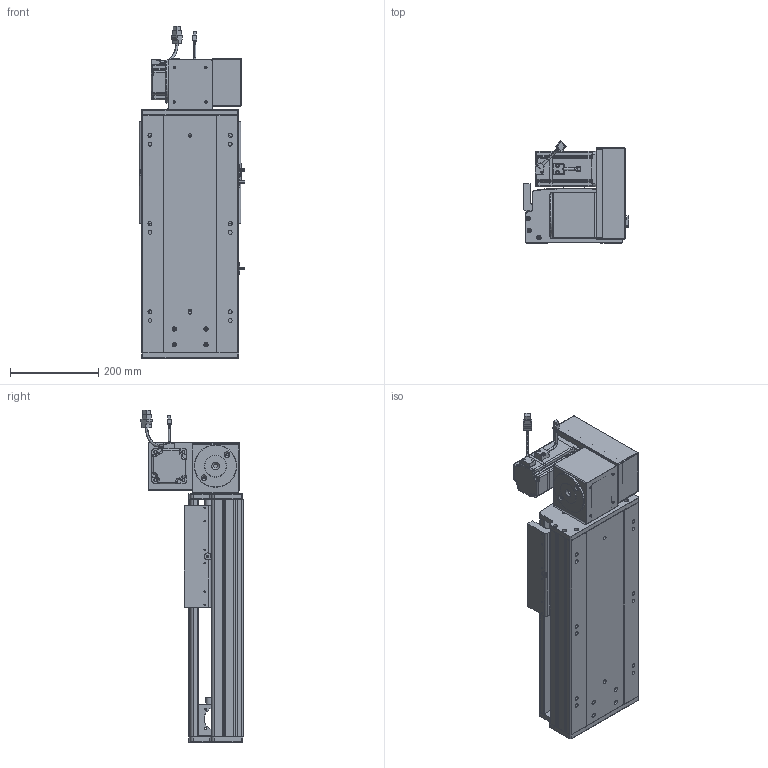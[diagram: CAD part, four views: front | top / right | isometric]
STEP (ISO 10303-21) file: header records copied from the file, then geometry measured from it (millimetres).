
FILE_DESCRIPTION (( 'STEP AP203' ), '1' );
FILE_NAME ('RY220-T-300-UR.SLDASM_200.step', '2022-07-25T08:42:22', ( '' ), ( '' ), 'SwSTEP 2.0', 'SolidWorks 2016', '' );
FILE_SCHEMA (( 'CONFIG_CONTROL_DESIGN' ));
Length unit declared in the file: millimetre
Products named in the file (14): RY220-T菁釱-300_200; RY220翋肮祭謫釱; RY220圉猾敕々湍臏賑輸; RY220翋肮祭謫裔啣; RY220-T-湍謫欶(鍼踢); 覜茼ん672; RY220-T-蛌殏萇儂假蚾啣(750W); RY220-T-300-UR.SLDASM_200; 滅袉蝶18-15; 110A-T-肮祭謫釱傷裔; RY220-俋离672覜茼んえ; RY220-同步轮副支撑座6304×2; 怢湛750W_ECMA-CX0807ES; RY220-T-300-奻裔啣_200
Assembly tree (18 placements, depth 2):
  RY220-T-300-UR.SLDASM_200
    RY220-T菁釱-300_200
    RY220翋肮祭謫釱
    覜茼ん672  x3
    RY220圉猾敕々湍臏賑輸
    RY220-T-300-奻裔啣_200
    RY220-俋离672覜茼んえ
    滅袉蝶18-15  x3
    RY220翋肮祭謫裔啣  x2
    110A-T-肮祭謫釱傷裔
    怢湛750W_ECMA-CX0807ES
    RY220-T-湍謫欶(鍼踢)
    RY220-T-蛌殏萇儂假蚾啣(750W)
    RY220-同步轮副支撑座6304×2
Bounding box: 238.7 x 231.74 x 753.27 mm (x, y, z)
Volume: 7085308.4 mm3; surface area: 1892157.5 mm2
Topology: 19 solids, 19 shells, 2456 faces, 6763 edges, 4322 vertices
Faces by surface type: cylinder 1112, plane 1069, cone 193, bspline 56, sphere 16, torus 10
Entity records: 81523 total; most frequent: CARTESIAN_POINT 23393, ORIENTED_EDGE 12122, DIRECTION 11308, EDGE_CURVE 6061, VERTEX_POINT 3946, AXIS2_PLACEMENT_3D 3946, LINE 3416, VECTOR 3416
